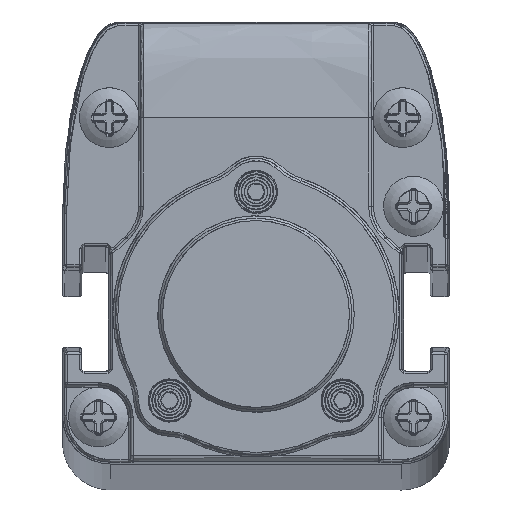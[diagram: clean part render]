
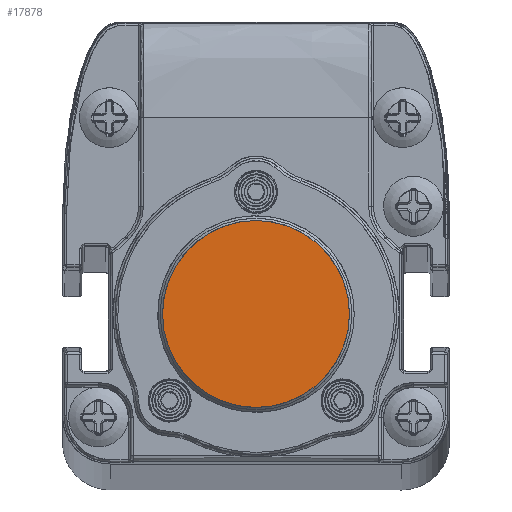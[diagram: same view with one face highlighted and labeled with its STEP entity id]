
A CAD part, top view. The second image highlights one B-rep face of the part: STEP entity #17878.
In plain terms, the highlighted planar face has unit normal (0, 0, 1).
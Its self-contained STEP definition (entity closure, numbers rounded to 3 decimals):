
#15086=B_SPLINE_CURVE_WITH_KNOTS('',3,(#62715,#62716,#62717,#62718,#62719,
#62720,#62721,#62722,#62723,#62724,#62725,#62726,#62727,#62728,#62729,#62730,
#62731,#62732,#62733,#62734,#62735,#62736,#62737,#62738,#62739,#62740,#62741,
#62742,#62743,#62744,#62745,#62746,#62747,#62748,#62749,#62750,#62751,#62752,
#62753,#62754,#62755,#62756,#62757,#62758,#62759,#62760,#62761,#62762,#62763,
#62764,#62765,#62766,#62767,#62768,#62769,#62770,#62771,#62772,#62773,#62774,
#62775,#62776,#62777,#62778,#62779,#62780,#62781,#62782,#62783,#62784,#62785,
#62786,#62787,#62788,#62789,#62790,#62791,#62792,#62793,#62794,#62795,#62796,
#62797,#62798,#62799,#62800,#62801,#62802,#62803,#62804,#62805,#62806,#62807,
#62808,#62809,#62810,#62811,#62812,#62813,#62814,#62815,#62816,#62817),
 .UNSPECIFIED.,.T.,.F.,(1,3,3,3,3,3,3,3,3,3,3,3,3,3,3,3,3,3,3,3,3,3,3,3,
3,3,3,3,3,3,3,3,3,3,3,3,1),(-0.029,0.,0.029,0.059,
0.088,0.118,0.147,0.176,
0.206,0.235,0.265,0.294,
0.324,0.353,0.382,0.412,
0.441,0.471,0.5,0.529,0.559,
0.588,0.618,0.647,0.676,
0.706,0.735,0.765,0.794,
0.824,0.853,0.882,0.912,
0.941,0.971,1.,1.029),.UNSPECIFIED.);
#17878=ADVANCED_FACE('',(#19861),#18774,.T.);
#18774=PLANE('',#43119);
#19861=FACE_OUTER_BOUND('',#21325,.T.);
#21325=EDGE_LOOP('',(#27584));
#27584=ORIENTED_EDGE('',*,*,#36495,.T.);
#31598=VERTEX_POINT('',#62818);
#36495=EDGE_CURVE('',#31598,#31598,#15086,.T.);
#43119=AXIS2_PLACEMENT_3D('',#62819,#47048,#47049);
#47048=DIRECTION('',(0.,0.,1.));
#47049=DIRECTION('',(1.,0.,0.));
#62715=CARTESIAN_POINT('',(7.8,0.,1283.34));
#62716=CARTESIAN_POINT('',(7.8,0.465,1283.34));
#62717=CARTESIAN_POINT('',(7.759,0.925,1283.34));
#62718=CARTESIAN_POINT('',(7.679,1.376,1283.34));
#62719=CARTESIAN_POINT('',(7.638,1.601,1283.34));
#62720=CARTESIAN_POINT('',(7.588,1.825,1283.34));
#62721=CARTESIAN_POINT('',(7.527,2.047,1283.34));
#62722=CARTESIAN_POINT('',(7.466,2.269,1283.34));
#62723=CARTESIAN_POINT('',(7.407,2.458,1283.34));
#62724=CARTESIAN_POINT('',(7.315,2.708,1283.34));
#62725=CARTESIAN_POINT('',(7.129,3.209,1283.34));
#62726=CARTESIAN_POINT('',(6.898,3.683,1283.34));
#62727=CARTESIAN_POINT('',(6.62,4.128,1283.34));
#62728=CARTESIAN_POINT('',(6.343,4.573,1283.34));
#62729=CARTESIAN_POINT('',(6.043,4.965,1283.34));
#62730=CARTESIAN_POINT('',(5.651,5.376,1283.34));
#62731=CARTESIAN_POINT('',(4.868,6.2,1283.34));
#62732=CARTESIAN_POINT('',(3.912,6.837,1283.34));
#62733=CARTESIAN_POINT('',(2.89,7.245,1283.34));
#62734=CARTESIAN_POINT('',(2.378,7.449,1283.34));
#62735=CARTESIAN_POINT('',(1.856,7.597,1283.34));
#62736=CARTESIAN_POINT('',(1.324,7.689,1283.34));
#62737=CARTESIAN_POINT('',(1.058,7.734,1283.34));
#62738=CARTESIAN_POINT('',(0.79,7.766,1283.34));
#62739=CARTESIAN_POINT('',(0.52,7.784,1283.34));
#62740=CARTESIAN_POINT('',(0.249,7.801,1283.34));
#62741=CARTESIAN_POINT('',(-0.055,7.804,1283.34));
#62742=CARTESIAN_POINT('',(-0.3,7.794,1283.34));
#62743=CARTESIAN_POINT('',(-0.79,7.775,1283.34));
#62744=CARTESIAN_POINT('',(-1.271,7.712,1283.34));
#62745=CARTESIAN_POINT('',(-1.742,7.604,1283.34));
#62746=CARTESIAN_POINT('',(-2.213,7.496,1283.34));
#62747=CARTESIAN_POINT('',(-2.713,7.327,1283.34));
#62748=CARTESIAN_POINT('',(-3.123,7.147,1283.34));
#62749=CARTESIAN_POINT('',(-3.534,6.968,1283.34));
#62750=CARTESIAN_POINT('',(-3.924,6.757,1283.34));
#62751=CARTESIAN_POINT('',(-4.293,6.513,1283.34));
#62752=CARTESIAN_POINT('',(-4.477,6.392,1283.34));
#62753=CARTESIAN_POINT('',(-4.656,6.262,1283.34));
#62754=CARTESIAN_POINT('',(-4.83,6.125,1283.34));
#62755=CARTESIAN_POINT('',(-5.004,5.987,1283.34));
#62756=CARTESIAN_POINT('',(-5.15,5.864,1283.34));
#62757=CARTESIAN_POINT('',(-5.337,5.688,1283.34));
#62758=CARTESIAN_POINT('',(-5.712,5.337,1283.34));
#62759=CARTESIAN_POINT('',(-6.047,4.956,1283.34));
#62760=CARTESIAN_POINT('',(-6.341,4.545,1283.34));
#62761=CARTESIAN_POINT('',(-6.635,4.134,1283.34));
#62762=CARTESIAN_POINT('',(-6.869,3.738,1283.34));
#62763=CARTESIAN_POINT('',(-7.102,3.226,1283.34));
#62764=CARTESIAN_POINT('',(-7.567,2.203,1283.34));
#62765=CARTESIAN_POINT('',(-7.8,1.124,1283.34));
#62766=CARTESIAN_POINT('',(-7.8,0.,1283.34));
#62767=CARTESIAN_POINT('',(-7.8,-0.562,1283.34));
#62768=CARTESIAN_POINT('',(-7.742,-1.113,1283.34));
#62769=CARTESIAN_POINT('',(-7.626,-1.651,1283.34));
#62770=CARTESIAN_POINT('',(-7.509,-2.189,1283.34));
#62771=CARTESIAN_POINT('',(-7.314,-2.758,1283.34));
#62772=CARTESIAN_POINT('',(-7.102,-3.226,1283.34));
#62773=CARTESIAN_POINT('',(-6.889,-3.694,1283.34));
#62774=CARTESIAN_POINT('',(-6.636,-4.134,1283.34));
#62775=CARTESIAN_POINT('',(-6.341,-4.544,1283.34));
#62776=CARTESIAN_POINT('',(-6.194,-4.75,1283.34));
#62777=CARTESIAN_POINT('',(-6.037,-4.947,1283.34));
#62778=CARTESIAN_POINT('',(-5.87,-5.138,1283.34));
#62779=CARTESIAN_POINT('',(-5.702,-5.329,1283.34));
#62780=CARTESIAN_POINT('',(-5.5,-5.535,1283.34));
#62781=CARTESIAN_POINT('',(-5.337,-5.688,1283.34));
#62782=CARTESIAN_POINT('',(-5.01,-5.995,1283.34));
#62783=CARTESIAN_POINT('',(-4.662,-6.27,1283.34));
#62784=CARTESIAN_POINT('',(-4.293,-6.513,1283.34));
#62785=CARTESIAN_POINT('',(-3.924,-6.756,1283.34));
#62786=CARTESIAN_POINT('',(-3.573,-6.951,1283.34));
#62787=CARTESIAN_POINT('',(-3.123,-7.147,1283.34));
#62788=CARTESIAN_POINT('',(-2.674,-7.344,1283.34));
#62789=CARTESIAN_POINT('',(-2.213,-7.496,1283.34));
#62790=CARTESIAN_POINT('',(-1.743,-7.604,1283.34));
#62791=CARTESIAN_POINT('',(-1.507,-7.658,1283.34));
#62792=CARTESIAN_POINT('',(-1.27,-7.701,1283.34));
#62793=CARTESIAN_POINT('',(-1.029,-7.732,1283.34));
#62794=CARTESIAN_POINT('',(-0.789,-7.764,1283.34));
#62795=CARTESIAN_POINT('',(-0.575,-7.784,1283.34));
#62796=CARTESIAN_POINT('',(-0.3,-7.794,1283.34));
#62797=CARTESIAN_POINT('',(0.801,-7.837,1283.34));
#62798=CARTESIAN_POINT('',(1.834,-7.666,1283.34));
#62799=CARTESIAN_POINT('',(2.89,-7.245,1283.34));
#62800=CARTESIAN_POINT('',(3.417,-7.035,1283.34));
#62801=CARTESIAN_POINT('',(3.912,-6.774,1283.34));
#62802=CARTESIAN_POINT('',(4.372,-6.462,1283.34));
#62803=CARTESIAN_POINT('',(4.833,-6.15,1283.34));
#62804=CARTESIAN_POINT('',(5.283,-5.763,1283.34));
#62805=CARTESIAN_POINT('',(5.651,-5.376,1283.34));
#62806=CARTESIAN_POINT('',(6.019,-4.989,1283.34));
#62807=CARTESIAN_POINT('',(6.342,-4.573,1283.34));
#62808=CARTESIAN_POINT('',(6.62,-4.128,1283.34));
#62809=CARTESIAN_POINT('',(6.759,-3.906,1283.34));
#62810=CARTESIAN_POINT('',(6.886,-3.676,1283.34));
#62811=CARTESIAN_POINT('',(7.002,-3.44,1283.34));
#62812=CARTESIAN_POINT('',(7.117,-3.203,1283.34));
#62813=CARTESIAN_POINT('',(7.234,-2.926,1283.34));
#62814=CARTESIAN_POINT('',(7.315,-2.708,1283.34));
#62815=CARTESIAN_POINT('',(7.638,-1.835,1283.34));
#62816=CARTESIAN_POINT('',(7.8,-0.933,1283.34));
#62817=CARTESIAN_POINT('',(7.8,0.,1283.34));
#62818=CARTESIAN_POINT('',(7.8,0.,1283.34));
#62819=CARTESIAN_POINT('',(-8.9,-8.81,1283.34));
